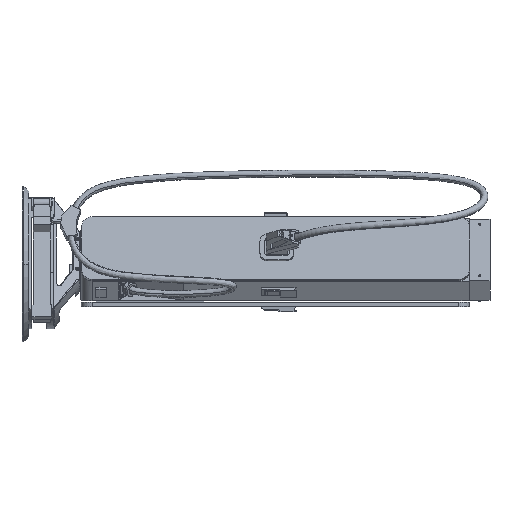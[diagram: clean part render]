
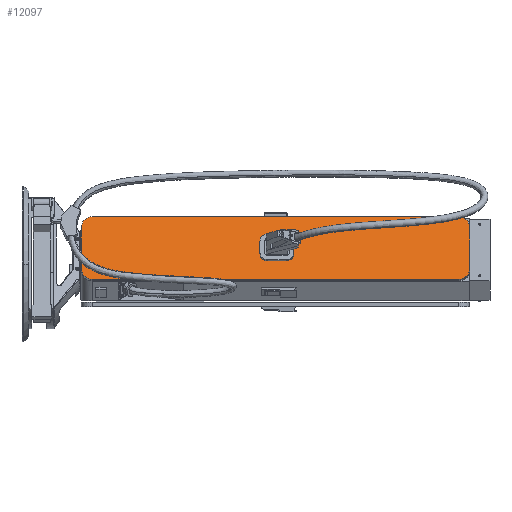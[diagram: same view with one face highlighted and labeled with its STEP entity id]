
A CAD part, left-side view. The second image highlights one B-rep face of the part: STEP entity #12097.
In plain terms, the highlighted planar face has unit normal (-0.94, 0, 0.342).
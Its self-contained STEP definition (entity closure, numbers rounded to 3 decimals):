
#3756=DIRECTION('',(0.,1.,0.));
#3757=VECTOR('',#3756,87.);
#3758=CARTESIAN_POINT('',(73.205,944.505,354.842));
#3759=LINE('',#3758,#3757);
#3763=CARTESIAN_POINT('',(61.036,1031.505,321.409));
#3764=DIRECTION('',(-0.94,0.,0.342));
#3765=DIRECTION('',(0.342,0.,0.94));
#3766=AXIS2_PLACEMENT_3D('',#3763,#3764,#3765);
#3771=DIRECTION('',(-0.342,0.,-0.94));
#3772=VECTOR('',#3771,55.);
#3773=CARTESIAN_POINT('',(61.036,1067.081,321.408));
#3774=LINE('',#3773,#3772);
#3778=CARTESIAN_POINT('',(42.225,1031.503,269.725));
#3779=DIRECTION('',(-0.94,0.,0.342));
#3780=DIRECTION('',(0.,1.,0.));
#3781=AXIS2_PLACEMENT_3D('',#3778,#3779,#3780);
#3786=DIRECTION('',(0.,-1.,0.));
#3787=VECTOR('',#3786,87.);
#3788=CARTESIAN_POINT('',(30.057,1031.503,236.294));
#3789=LINE('',#3788,#3787);
#3793=CARTESIAN_POINT('',(42.226,944.503,269.727));
#3794=DIRECTION('',(-0.94,0.,0.342));
#3795=DIRECTION('',(-0.342,0.,-0.94));
#3796=AXIS2_PLACEMENT_3D('',#3793,#3794,#3795);
#3801=DIRECTION('',(0.342,0.,0.94));
#3802=VECTOR('',#3801,55.);
#3803=CARTESIAN_POINT('',(42.226,908.926,269.728));
#3804=LINE('',#3803,#3802);
#3808=CARTESIAN_POINT('',(61.037,944.504,321.41));
#3809=DIRECTION('',(-0.94,0.,0.342));
#3810=DIRECTION('',(0.,-1.,0.));
#3811=AXIS2_PLACEMENT_3D('',#3808,#3809,#3810);
#3816=CARTESIAN_POINT('',(16.062,144.494,197.843));
#3817=DIRECTION('',(-0.94,0.,0.342));
#3818=DIRECTION('',(-0.342,0.,-0.94));
#3819=AXIS2_PLACEMENT_3D('',#3816,#3817,#3818);
#3824=DIRECTION('',(0.,-1.,0.));
#3825=VECTOR('',#3824,1700.);
#3826=CARTESIAN_POINT('',(-1.052,1844.493,150.822));
#3827=LINE('',#3826,#3825);
#3831=CARTESIAN_POINT('',(16.049,1844.494,197.807));
#3832=DIRECTION('',(-0.94,0.,0.342));
#3833=DIRECTION('',(0.,1.,0.));
#3834=AXIS2_PLACEMENT_3D('',#3831,#3832,#3833);
#3839=DIRECTION('',(-0.342,0.,-0.94));
#3840=VECTOR('',#3839,208.);
#3841=CARTESIAN_POINT('',(87.189,1894.499,393.262));
#3842=LINE('',#3841,#3840);
#3846=CARTESIAN_POINT('',(87.189,1844.499,393.263));
#3847=DIRECTION('',(-0.94,0.,0.342));
#3848=DIRECTION('',(0.342,0.,0.94));
#3849=AXIS2_PLACEMENT_3D('',#3846,#3847,#3848);
#3854=DIRECTION('',(0.,1.,0.));
#3855=VECTOR('',#3854,1700.);
#3856=CARTESIAN_POINT('',(104.303,144.5,440.284));
#3857=LINE('',#3856,#3855);
#3861=CARTESIAN_POINT('',(87.202,144.499,393.299));
#3862=DIRECTION('',(-0.94,0.,0.342));
#3863=DIRECTION('',(0.,-1.,0.));
#3864=AXIS2_PLACEMENT_3D('',#3861,#3862,#3863);
#3869=DIRECTION('',(0.342,0.,0.94));
#3870=VECTOR('',#3869,208.);
#3871=CARTESIAN_POINT('',(16.063,94.494,197.844));
#3872=LINE('',#3871,#3870);
#6010=CARTESIAN_POINT('',(73.205,944.505,354.842));
#6011=CARTESIAN_POINT('',(73.204,1031.505,354.84));
#6012=VERTEX_POINT('',#6010);
#6013=VERTEX_POINT('',#6011);
#6014=CARTESIAN_POINT('',(61.036,1067.081,321.408));
#6015=VERTEX_POINT('',#6014);
#6016=CARTESIAN_POINT('',(42.225,1067.08,269.725));
#6017=VERTEX_POINT('',#6016);
#6018=CARTESIAN_POINT('',(30.057,1031.503,236.294));
#6019=VERTEX_POINT('',#6018);
#6020=CARTESIAN_POINT('',(30.058,944.502,236.296));
#6021=VERTEX_POINT('',#6020);
#6022=CARTESIAN_POINT('',(42.226,908.926,269.728));
#6023=VERTEX_POINT('',#6022);
#6024=CARTESIAN_POINT('',(61.038,908.927,321.411));
#6025=VERTEX_POINT('',#6024);
#6663=CARTESIAN_POINT('',(-1.038,144.493,150.858));
#6664=VERTEX_POINT('',#6663);
#6665=CARTESIAN_POINT('',(16.063,94.494,197.844));
#6666=VERTEX_POINT('',#6665);
#6703=CARTESIAN_POINT('',(87.203,94.499,393.3));
#6704=VERTEX_POINT('',#6703);
#6705=CARTESIAN_POINT('',(104.303,144.5,440.284));
#6706=VERTEX_POINT('',#6705);
#6711=CARTESIAN_POINT('',(104.29,1844.5,440.247));
#6712=VERTEX_POINT('',#6711);
#6713=CARTESIAN_POINT('',(87.189,1894.499,393.262));
#6714=VERTEX_POINT('',#6713);
#6719=CARTESIAN_POINT('',(16.049,1894.494,197.805));
#6720=VERTEX_POINT('',#6719);
#6721=CARTESIAN_POINT('',(-1.052,1844.493,150.822));
#6722=VERTEX_POINT('',#6721);
#12064=CARTESIAN_POINT('',(-49.402,97.3,17.981));
#12065=DIRECTION('',(-0.94,0.,0.342));
#12066=DIRECTION('',(0.342,0.,0.94));
#12067=AXIS2_PLACEMENT_3D('',#12064,#12065,#12066);
#12068=PLANE('',#12067);
#12069=ORIENTED_EDGE('',*,*,#11864,.F.);
#12070=ORIENTED_EDGE('',*,*,#11892,.F.);
#12071=ORIENTED_EDGE('',*,*,#11917,.F.);
#12072=ORIENTED_EDGE('',*,*,#11942,.F.);
#12073=ORIENTED_EDGE('',*,*,#11969,.F.);
#12074=ORIENTED_EDGE('',*,*,#11994,.F.);
#12075=ORIENTED_EDGE('',*,*,#12021,.F.);
#12076=ORIENTED_EDGE('',*,*,#12045,.F.);
#12077=EDGE_LOOP('',(#12069,#12070,#12071,#12072,#12073,#12074,#12075,#12076));
#12078=FACE_OUTER_BOUND('',#12077,.F.);
#12080=ORIENTED_EDGE('',*,*,#12079,.T.);
#12082=ORIENTED_EDGE('',*,*,#12081,.T.);
#12084=ORIENTED_EDGE('',*,*,#12083,.T.);
#12086=ORIENTED_EDGE('',*,*,#12085,.T.);
#12088=ORIENTED_EDGE('',*,*,#12087,.T.);
#12090=ORIENTED_EDGE('',*,*,#12089,.T.);
#12092=ORIENTED_EDGE('',*,*,#12091,.T.);
#12094=ORIENTED_EDGE('',*,*,#12093,.T.);
#12095=EDGE_LOOP('',(#12080,#12082,#12084,#12086,#12088,#12090,#12092,#12094));
#12096=FACE_BOUND('',#12095,.F.);
#3767=CIRCLE('',#3766,35.577);
#3782=CIRCLE('',#3781,35.577);
#3797=CIRCLE('',#3796,35.577);
#3812=CIRCLE('',#3811,35.577);
#3820=CIRCLE('',#3819,50.);
#3835=CIRCLE('',#3834,50.);
#3850=CIRCLE('',#3849,50.);
#3865=CIRCLE('',#3864,50.);
#11864=EDGE_CURVE('',#6664,#6666,#3820,.T.);
#11892=EDGE_CURVE('',#6722,#6664,#3827,.T.);
#11917=EDGE_CURVE('',#6720,#6722,#3835,.T.);
#11942=EDGE_CURVE('',#6714,#6720,#3842,.T.);
#11969=EDGE_CURVE('',#6712,#6714,#3850,.T.);
#11994=EDGE_CURVE('',#6706,#6712,#3857,.T.);
#12021=EDGE_CURVE('',#6704,#6706,#3865,.T.);
#12045=EDGE_CURVE('',#6666,#6704,#3872,.T.);
#12079=EDGE_CURVE('',#6012,#6013,#3759,.T.);
#12081=EDGE_CURVE('',#6013,#6015,#3767,.T.);
#12083=EDGE_CURVE('',#6015,#6017,#3774,.T.);
#12085=EDGE_CURVE('',#6017,#6019,#3782,.T.);
#12087=EDGE_CURVE('',#6019,#6021,#3789,.T.);
#12089=EDGE_CURVE('',#6021,#6023,#3797,.T.);
#12091=EDGE_CURVE('',#6023,#6025,#3804,.T.);
#12093=EDGE_CURVE('',#6025,#6012,#3812,.T.);
#12097=ADVANCED_FACE('',(#12078,#12096),#12068,.T.);
